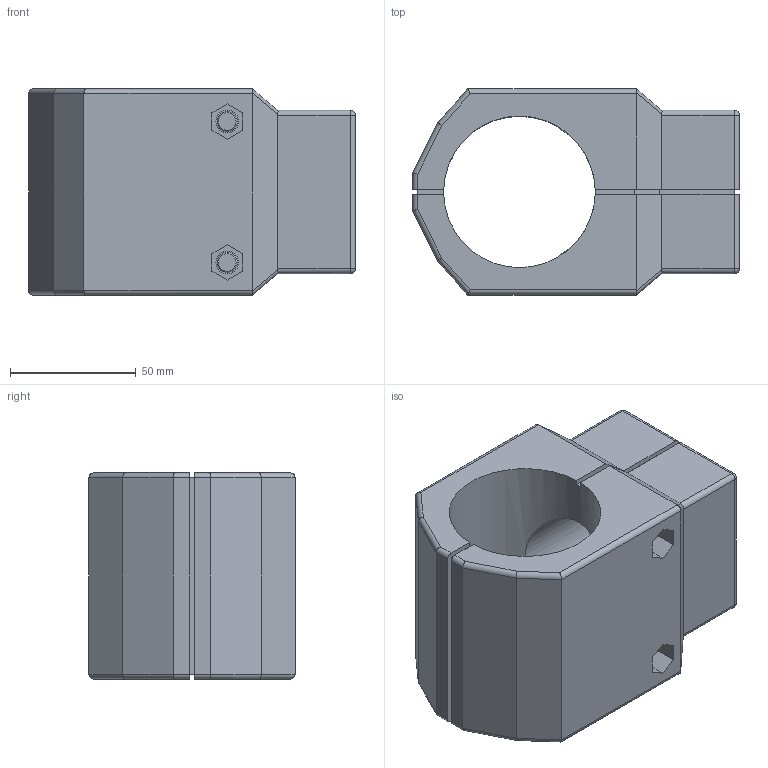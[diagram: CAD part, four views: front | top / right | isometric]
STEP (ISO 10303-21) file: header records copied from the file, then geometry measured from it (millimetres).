
FILE_DESCRIPTION (( 'STEP AP214' ), '1' );
FILE_NAME ('331 5.step', '2017-04-05T07:52:04', ( '' ), ( '' ), 'SwSTEP 2.0', 'SolidWorks 2015', '' );
FILE_SCHEMA (( 'AUTOMOTIVE_DESIGN' ));
Length unit declared in the file: millimetre
Products named in the file (1): 331 5
Bounding box: 130 x 82 x 82 mm (x, y, z)
Volume: 405773 mm3; surface area: 73193.3 mm2
Topology: 3 solids, 3 shells, 145 faces, 371 edges, 232 vertices
Faces by surface type: plane 79, cylinder 50, bspline 12, cone 4
Entity records: 4621 total; most frequent: CARTESIAN_POINT 1183, ORIENTED_EDGE 734, DIRECTION 671, EDGE_CURVE 367, LINE 239, VECTOR 239, VERTEX_POINT 232, AXIS2_PLACEMENT_3D 216
